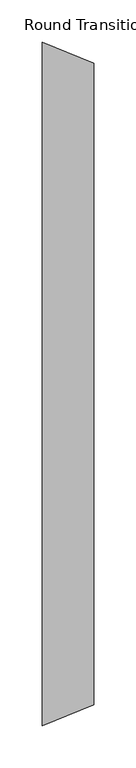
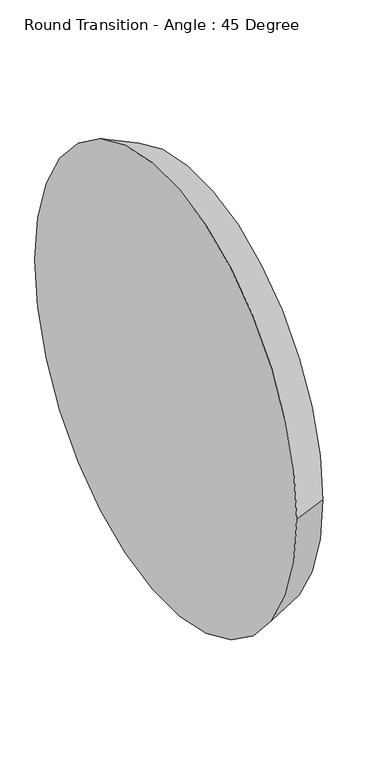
"""IFC4 building model written with IfcOpenShell, lengths in millimetres: duct fitting geometry, Round Transition - Angle : 45 Degree."""

import ifcopenshell
import ifcopenshell.guid

model = None  # the IFC model being written
_history = None  # IfcOwnerHistory: only IFC2X3 demands one
_inside = {}  # id of a spatial element -> (the spatial element, [elements in it])
_under = {}  # id of a project, library or spatial element -> (it, [spatial elements below it])
_declared = {}  # id of a project -> (the project, [libraries it declares])
_typed = {}  # id of a type object -> (the type object, [elements of that type])
_made_of = {}  # id of a material, layer set ... -> (it, [elements and type objects made of it])


def new_model(schema):
    """Start an empty IFC model of exactly this schema.

    Asked for "IFC4X3", IfcOpenShell would pick the latest addendum, in which some entities
    have other attributes; the version numbers below select the first issue.
    IFC2X3 requires an IfcOwnerHistory on every rooted entity: one is made here for all.
    """
    global model, _history
    if schema == "IFC4X3":
        model = ifcopenshell.file(schema_version=(4, 3, 0, 0))
    else:
        model = ifcopenshell.file(schema=schema)
    _inside.clear()
    _under.clear()
    _declared.clear()
    _typed.clear()
    _made_of.clear()
    _history = None
    if model.schema == "IFC2X3":
        org = make("IfcOrganization", Name="unknown")
        user = make(
            "IfcPersonAndOrganization",
            ThePerson=make("IfcPerson", FamilyName="unknown"),
            TheOrganization=org,
        )
        app = make(
            "IfcApplication",
            ApplicationDeveloper=org,
            Version="unknown",
            ApplicationFullName="unknown",
            ApplicationIdentifier="unknown",
        )
        _history = make(
            "IfcOwnerHistory",
            OwningUser=user,
            OwningApplication=app,
            ChangeAction="ADDED",
            CreationDate=0,
        )
    return model


def make(cls, **values):
    """One entity of the class cls with the attributes given. An attribute that is None is left unset."""
    return model.create_entity(
        cls, **{name: value for name, value in values.items() if value is not None}
    )


def rooted(cls, **values):
    """An entity with a GlobalId (a new one), such as an element, a storey or a relation."""
    return make(cls, GlobalId=ifcopenshell.guid.new(), OwnerHistory=_history, **values)


def si_unit(unit_type, name, prefix=None):
    """IfcSIUnit, for example si_unit("LENGTHUNIT", "METRE", prefix="MILLI")."""
    return make("IfcSIUnit", UnitType=unit_type, Prefix=prefix, Name=name)


def assignment(units):
    """IfcUnitAssignment: the units of a project."""
    return None if units is None else make("IfcUnitAssignment", Units=units)


def point(xyz):
    """IfcCartesianPoint."""
    return None if xyz is None else make("IfcCartesianPoint", Coordinates=xyz)


def direction(xyz):
    """IfcDirection."""
    return None if xyz is None else make("IfcDirection", DirectionRatios=xyz)


def frame(location, z_axis=None, x_axis=None):
    """IfcAxis2Placement3D, a coordinate frame: its origin and axes. An axis left out is left unset."""
    return make(
        "IfcAxis2Placement3D",
        Location=point(location),
        Axis=direction(z_axis),
        RefDirection=direction(x_axis),
    )


def origin():
    """The frame at (0, 0, 0) with its axes left unset."""
    return frame((0.0, 0.0, 0.0))


def place(relative_to, where):
    """IfcLocalPlacement: puts the frame where relative to a parent placement (None: the world)."""
    return make(
        "IfcLocalPlacement", PlacementRelTo=relative_to, RelativePlacement=where
    )


def context(
    kind, dimensions, precision=None, world=None, true_north=None, identifier=None
):
    """IfcGeometricRepresentationContext, for example the 3D "Model" context."""
    return make(
        "IfcGeometricRepresentationContext",
        ContextIdentifier=identifier,
        ContextType=kind,
        CoordinateSpaceDimension=dimensions,
        Precision=precision,
        WorldCoordinateSystem=world,
        TrueNorth=true_north,
    )


def project(units=None, contexts=None):
    """IfcProject with its units and contexts."""
    return rooted(
        "IfcProject",
        Name="project",
        RepresentationContexts=contexts,
        UnitsInContext=assignment(units),
    )


def spatial(cls, under=None, at=None, **own):
    """A site, building, storey or space (cls), placed at a placement, below another one or the project."""
    s = rooted(cls, ObjectPlacement=at, **own)
    if under is not None:
        _under.setdefault(under.id(), (under, []))[1].append(s)
    return s


def polyline(points):
    """IfcPolyline through the points."""
    return make("IfcPolyline", Points=[point(p) for p in points])


def circle_curve(where, radius):
    """IfcCircle in the frame where."""
    return make("IfcCircle", Position=where, Radius=radius)


def shape(context_of_items, identifier, shape_type, items):
    """IfcShapeRepresentation: the items that make up one representation, for example the "Body"."""
    return make(
        "IfcShapeRepresentation",
        ContextOfItems=context_of_items,
        RepresentationIdentifier=identifier,
        RepresentationType=shape_type,
        Items=items,
    )


def source(mapping_origin, context_of_items, identifier, shape_type, items):
    """IfcRepresentationMap: a shape defined once, which mapped items show again and again."""
    return make(
        "IfcRepresentationMap",
        MappingOrigin=mapping_origin,
        MappedRepresentation=shape(context_of_items, identifier, shape_type, items),
    )


def transform(
    local_origin,
    x_axis=None,
    y_axis=None,
    z_axis=None,
    scale=None,
    scale2=None,
    scale3=None,
    uniform=True,
):
    """IfcCartesianTransformationOperator3D, or its non-uniform kind. x_axis, y_axis, z_axis: its Axis1, 2, 3."""
    if uniform:
        return make(
            "IfcCartesianTransformationOperator3D",
            Axis1=direction(x_axis),
            Axis2=direction(y_axis),
            LocalOrigin=point(local_origin),
            Scale=scale,
            Axis3=direction(z_axis),
        )
    return make(
        "IfcCartesianTransformationOperator3DnonUniform",
        Axis1=direction(x_axis),
        Axis2=direction(y_axis),
        LocalOrigin=point(local_origin),
        Scale=scale,
        Axis3=direction(z_axis),
        Scale2=scale2,
        Scale3=scale3,
    )


def mapped(mapping_source, mapping_target):
    """IfcMappedItem: shows the shape of a source again, moved by a transform."""
    return make(
        "IfcMappedItem", MappingSource=mapping_source, MappingTarget=mapping_target
    )


def made_of(thing, what):
    """Note that an element or type object is made of a material, layer set ...; save() writes the relation."""
    if what is not None:
        _made_of.setdefault(what.id(), (what, []))[1].append(thing)
    return thing


def element(
    cls,
    number,
    at=None,
    inside=None,
    cuts=None,
    type_object=None,
    material=None,
    context=None,
    identifier="Body",
    shape_type=None,
    held_by="IfcProductDefinitionShape",
    body=None,
    shapes=None,
    **own,
):
    """One element of the class cls, such as IfcWall. Its Tag is "e" and its number.

    at: its placement. inside: the storey or other place that contains it. cuts: it is an
    opening in that element (IfcRelVoidsElement). A single representation is given by context,
    identifier, shape_type and body (its items); several are given by shapes. held_by: the class
    of the entity that holds the representations. save() writes the other relations.
    """
    e = rooted(cls, Tag="e%d" % number, ObjectPlacement=at, **own)
    if body is not None:
        shapes = [shape(context, identifier, shape_type, body)]
    if shapes is not None:
        e.Representation = make(held_by, Representations=shapes)
    if inside is not None:
        _inside.setdefault(inside.id(), (inside, []))[1].append(e)
    if cuts is not None:
        rooted(
            "IfcRelVoidsElement", RelatingBuildingElement=cuts, RelatedOpeningElement=e
        )
    if type_object is not None:
        _typed.setdefault(type_object.id(), (type_object, []))[1].append(e)
    return made_of(e, material)


def aggregate(whole, parts):
    """IfcRelAggregates: a whole, such as a stair, and the parts it consists of."""
    return rooted("IfcRelAggregates", RelatingObject=whole, RelatedObjects=parts)


def save(model, path):
    """Write the relations noted so far, then the file.

    IfcRelAggregates (storeys below a building ...), IfcRelContainedInSpatialStructure (elements
    in a storey), IfcRelDefinesByType, IfcRelAssociatesMaterial and IfcRelDeclares: one each for
    every whole, place, type object, material and project.
    """
    for whole, parts in _under.values():
        aggregate(whole, parts)
    for where, things in _inside.values():
        rooted(
            "IfcRelContainedInSpatialStructure",
            RelatedElements=things,
            RelatingStructure=where,
        )
    for kind, things in _typed.values():
        rooted("IfcRelDefinesByType", RelatedObjects=things, RelatingType=kind)
    for what, things in _made_of.values():
        rooted("IfcRelAssociatesMaterial", RelatedObjects=things, RelatingMaterial=what)
    for by, libraries in _declared.values():
        rooted("IfcRelDeclares", RelatingContext=by, RelatedDefinitions=libraries)
    model.write(path)


def plane_surface(at):
    """IfcPlane: the flat surface through the origin of the frame at, square to its z axis."""
    return make("IfcPlane", Position=at)


def revolved_surface(curve, axis_point, axis_direction):
    """IfcSurfaceOfRevolution: the curve turned about the line through axis_point along axis_direction."""
    return make(
        "IfcSurfaceOfRevolution",
        SweptCurve=make("IfcArbitraryOpenProfileDef", ProfileType="CURVE", Curve=curve),
        AxisPosition=make("IfcAxis1Placement", Location=point(axis_point), Axis=direction(axis_direction)),
    )


def advanced_brep(points, edges, surfaces, faces):
    """IfcAdvancedBrep: a solid bounded by faces that lie on surfaces and meet in shared edges.

    An edge is (start, end): straight between two places in points (the first is 0);
    or (start, end, curve); or (start, end, curve, False) where it runs against its curve.
    A face is (place in surfaces, loops), or (place, loops, False) where it looks against
    its surface's normal. A loop lists edges by number (the first is 1), with a minus sign
    where the edge is run from its end to its start. The first loop is the outer one.
    """
    corners = [point(p) for p in points]
    vertices = [make("IfcVertexPoint", VertexGeometry=c) for c in corners]
    made = []
    for start, end, *more in edges:
        made.append(
            make(
                "IfcEdgeCurve",
                EdgeStart=vertices[start],
                EdgeEnd=vertices[end],
                EdgeGeometry=more[0] if more else make("IfcPolyline", Points=[corners[start], corners[end]]),
                SameSense=more[1] if len(more) > 1 else True,
            )
        )
    hull = []
    for where, loops, *sense in faces:
        bounds = []
        for j, loop in enumerate(loops):
            ring = [make("IfcOrientedEdge", EdgeElement=made[abs(k) - 1], Orientation=k > 0) for k in loop]
            bounds.append(
                make(
                    "IfcFaceOuterBound" if j == 0 else "IfcFaceBound",
                    Bound=make("IfcEdgeLoop", EdgeList=ring),
                    Orientation=True,
                )
            )
        hull.append(make("IfcAdvancedFace", Bounds=bounds, FaceSurface=surfaces[where], SameSense=sense[0] if sense else True))
    return make("IfcAdvancedBrep", Outer=make("IfcClosedShell", CfsFaces=hull))


def round_transition_angle_45_degree_e02685fd(model_context):
    return source(origin(), model_context, "Body", "AdvancedBrep", [
        advanced_brep(
        [(61.3210245, -381.0, 0.0), (61.3210245, 381.0, 0.0), (0.0, -406.4, 0.0), (0.0, 406.4, 0.0)],
        [
            (0, 1, circle_curve(frame((61.3210245, 0.0, 0.0), z_axis=(1.0, 0.0, 0.0), x_axis=(0.0, -1.0, 0.0)), 381.0)),
            (1, 0, circle_curve(frame((61.3210245, 0.0, 0.0), z_axis=(1.0, 0.0, 0.0), x_axis=(0.0, 1.0, 0.0)), 381.0)),
            (2, 3, circle_curve(frame((0.0, 0.0, 0.0), z_axis=(-1.0, 0.0, 0.0), x_axis=(0.0, 1.0, 0.0)), 406.4)),
            (3, 2, circle_curve(frame((0.0, 0.0, 0.0), z_axis=(-1.0, 0.0, 0.0), x_axis=(0.0, -1.0, 0.0)), 406.4)),
            (3, 1),
            (0, 2),
        ],
        [
            plane_surface(frame((61.3210245, 0.0, 0.0), z_axis=(1.0, 0.0, 0.0), x_axis=(0.0, 0.0, -1.0))),
            plane_surface(frame((0.0, 0.0, 0.0), z_axis=(-1.0, 0.0, 0.0), x_axis=(0.0, 0.0, -1.0))),
            revolved_surface(polyline([(61.32102450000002, -380.9999999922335, 0.0), (0.0, -406.4, 0.0)]), (981.1363917, 0.0, 0.0), (-1.0, 0.0, 0.0)),
            revolved_surface(polyline([(61.32102450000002, 380.9999999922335, 0.0), (0.0, 406.4, 0.0)]), (981.1363917, 0.0, 0.0), (-1.0, 0.0, 0.0)),
        ],
        [
            (0, [[1, 2]]),
            (1, [[3, 4]]),
            (2, [[-4, 5, -1, 6]]),
            (3, [[-3, -6, -2, -5]]),
        ],
    ),
    ])


if __name__ == "__main__":
    model = new_model("IFC4")
    model_context = context("Model", 3, world=origin())
    ifc_project = project(units=[si_unit("LENGTHUNIT", "METRE", prefix="MILLI")], contexts=[model_context])
    site = spatial("IfcSite", under=ifc_project)
    building = spatial("IfcBuilding", under=site)
    placement = place(None, origin())
    round_transition_angle_45_degree_shape = round_transition_angle_45_degree_e02685fd(model_context)
    element("IfcDuctFitting", 1, ObjectType="Round Transition - Angle : 45 Degree", at=placement, inside=building, context=model_context, shape_type="MappedRepresentation", body=[
        mapped(round_transition_angle_45_degree_shape, transform((0.0, 0.0, 0.0), x_axis=(1.0, 0.0, 0.0), y_axis=(0.0, 1.0, 0.0), z_axis=(0.0, 0.0, 1.0))),
    ])
    save(model, "model.ifc")
